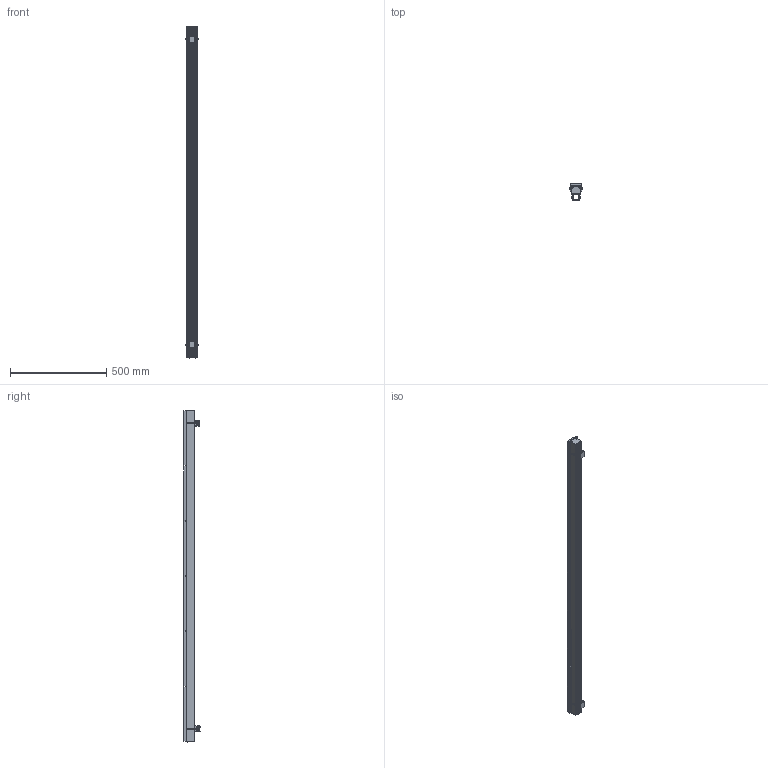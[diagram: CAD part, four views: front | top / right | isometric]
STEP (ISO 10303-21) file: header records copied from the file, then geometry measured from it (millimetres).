
FILE_DESCRIPTION (( 'STEP AP214' ), '1' );
FILE_NAME ('Pixel E 17.STEP', '2017-10-10T10:05:52', ( 'tecnica2' ), ( 'Microsoft' ), 'SwSTEP 2.0', 'SolidWorks 2016', '' );
FILE_SCHEMA (( 'AUTOMOTIVE_DESIGN' ));
Length unit declared in the file: millimetre
Products named in the file (9): Ensamblaje kit empotrable-BIM; muelle perfil-BIM; soporte muelle-BIM_flexado; TT 65 T 3X6; Tapa-BIM_definitiva; Perfil DRIVER-BIM_X6(L:1722mm); lente-BIM; Perfil LED-BIM_X6(L:1722); Pixel E 17
Assembly tree (19 placements, depth 3):
  Pixel E 17
    Perfil LED-BIM_X6(L:1722)
    lente-BIM  x6
    Perfil DRIVER-BIM_X6(L:1722mm)
    Tapa-BIM_definitiva  x2
    TT 65 T 3X6  x4
    Ensamblaje kit empotrable-BIM  x2
      soporte muelle-BIM_flexado
      muelle perfil-BIM
Bounding box: 65.27 x 85.06 x 1726 mm (x, y, z)
Volume: 4352330 mm3; surface area: 951517.9 mm2
Topology: 22 solids, 22 shells, 1118 faces, 2718 edges, 1612 vertices
Faces by surface type: cylinder 414, plane 356, bspline 216, cone 84, torus 24, sphere 24
Full cylindrical faces by diameter (mm): 1.3 x8
Entity records: 17280 total; most frequent: CARTESIAN_POINT 6668, ORIENTED_EDGE 2008, DIRECTION 1876, EDGE_CURVE 1004, AXIS2_PLACEMENT_3D 657, VERTEX_POINT 626, VECTOR 562, LINE 562
